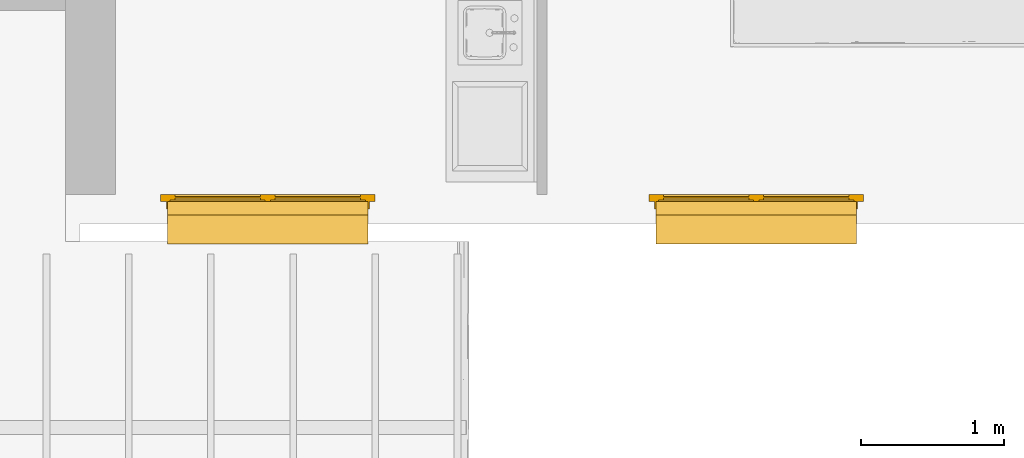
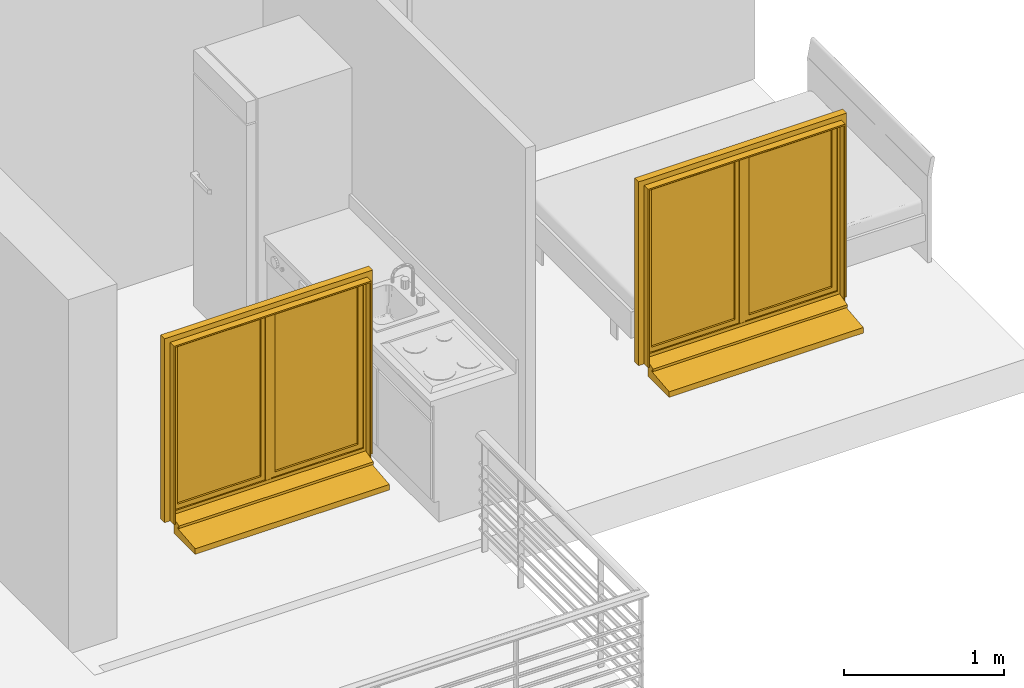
# One storey, part 11 of 15: 2 windows.
"""IFC2X3 building model written with IfcOpenShell, lengths in metres."""

from ifc_helpers import new_model, entity, si_unit, converted_unit, derived_unit, direction, frame, origin, place, context, subcontext, project, spatial, faceted_brep, source, transform, mapped, material, material_list, type_object, type_shapes, element, save


model = new_model("IFC2X3")

# Units and contexts
model_context = context("Model", 3, precision=1e-05, world=origin(), true_north=direction((6.12303176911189e-17, 1.0)))
body_context = subcontext(model_context, "Body", "Model", "MODEL_VIEW")
ifc_project = project(units=[si_unit("LENGTHUNIT", "METRE"), si_unit("AREAUNIT", "SQUARE_METRE"), si_unit("VOLUMEUNIT", "CUBIC_METRE"), converted_unit("PLANEANGLEUNIT", "DEGREE", entity("IfcRatioMeasure", 0.0174532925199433), si_unit("PLANEANGLEUNIT", "RADIAN"), dimensions=[0, 0, 0, 0, 0, 0, 0]), si_unit("MASSUNIT", "GRAM", prefix="KILO"), derived_unit("MASSDENSITYUNIT", [(si_unit("MASSUNIT", "GRAM", prefix="KILO"), 1), (si_unit("LENGTHUNIT", "METRE"), -3)]), derived_unit("MOMENTOFINERTIAUNIT", [(si_unit("LENGTHUNIT", "METRE"), 4)]), si_unit("TIMEUNIT", "SECOND"), si_unit("FREQUENCYUNIT", "HERTZ"), si_unit("THERMODYNAMICTEMPERATUREUNIT", "DEGREE_CELSIUS"), derived_unit("THERMALTRANSMITTANCEUNIT", [(si_unit("MASSUNIT", "GRAM", prefix="KILO"), 1), (si_unit("THERMODYNAMICTEMPERATUREUNIT", "KELVIN"), -1), (si_unit("TIMEUNIT", "SECOND"), -3)]), derived_unit("VOLUMETRICFLOWRATEUNIT", [(si_unit("LENGTHUNIT", "METRE"), 3), (si_unit("TIMEUNIT", "SECOND"), -1)]), si_unit("ELECTRICCURRENTUNIT", "AMPERE"), si_unit("ELECTRICVOLTAGEUNIT", "VOLT"), si_unit("POWERUNIT", "WATT"), si_unit("FORCEUNIT", "NEWTON", prefix="KILO"), si_unit("ILLUMINANCEUNIT", "LUX"), si_unit("LUMINOUSFLUXUNIT", "LUMEN"), si_unit("LUMINOUSINTENSITYUNIT", "CANDELA"), derived_unit("USERDEFINED", [(si_unit("MASSUNIT", "GRAM", prefix="KILO"), -1), (si_unit("LENGTHUNIT", "METRE"), -2), (si_unit("TIMEUNIT", "SECOND"), 3), (si_unit("LUMINOUSFLUXUNIT", "LUMEN"), 1)]), derived_unit("LINEARVELOCITYUNIT", [(si_unit("LENGTHUNIT", "METRE"), 1), (si_unit("TIMEUNIT", "SECOND"), -1)]), si_unit("PRESSUREUNIT", "PASCAL"), derived_unit("USERDEFINED", [(si_unit("LENGTHUNIT", "METRE"), -2), (si_unit("MASSUNIT", "GRAM", prefix="KILO"), 1), (si_unit("TIMEUNIT", "SECOND"), -2)]), derived_unit("LINEARFORCEUNIT", [(si_unit("MASSUNIT", "GRAM", prefix="KILO"), 1), (si_unit("LENGTHUNIT", "METRE"), 1), (si_unit("TIMEUNIT", "SECOND"), -2), (si_unit("LENGTHUNIT", "METRE"), -1)]), derived_unit("PLANARFORCEUNIT", [(si_unit("MASSUNIT", "GRAM", prefix="KILO"), 1), (si_unit("LENGTHUNIT", "METRE"), 1), (si_unit("TIMEUNIT", "SECOND"), -2), (si_unit("LENGTHUNIT", "METRE"), -2)])], contexts=[model_context])

# Site, building, storey
site_placement = place(None, origin())
site = spatial("IfcSite", under=ifc_project, at=site_placement, Name="Surface", CompositionType="ELEMENT")
building_placement = place(site_placement, origin())
building = spatial("IfcBuilding", under=site, at=building_placement, CompositionType="ELEMENT")
storey_placement = place(building_placement, frame((0.0, 0.0, 2.65)))
storey = spatial("IfcBuildingStorey", under=building, at=storey_placement, Name="Niveau étage", CompositionType="ELEMENT", Elevation=2.65)

# Windows
ifc_material_1 = material(Name="Fenêtre - Poignée")
ifc_material_2 = material(Name="Fenêtre - Appui")
ifc_material_3 = material(Name="Fenêtre - Cadre(1)")
ifc_material_4 = material(Name="Fenêtre - Vitrage")
ifc_material_5 = material(Name="Fenêtre - Cadre")
ifc_material_list_1 = material_list([ifc_material_1, ifc_material_2, ifc_material_3, ifc_material_4, ifc_material_5])
ifc_material_6 = material(Name="Volets - Bois")
ifc_material_list_2 = material_list([ifc_material_4, ifc_material_5, ifc_material_6, ifc_material_2, ifc_material_3, ifc_material_1])
window_style = type_object("IfcWindowStyle", Name="2 Vantaux droits - Volets et petits bois:1.40m x 1.35m - Appui Béton 2", ConstructionType="NOTDEFINED", OperationType="DOUBLE_PANEL_VERTICAL", ParameterTakesPrecedence=False, Sizeable=False, material=ifc_material_list_2)
shared_shape = source(origin(), body_context, "Body", "Brep", [
    faceted_brep([(0.780646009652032, -0.67100000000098, 0.702033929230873), (0.782033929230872, -0.67100000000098, 0.700646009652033), (0.782033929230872, -0.67100000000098, 0.689332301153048), (0.780667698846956, -0.67100000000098, 0.687966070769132), (0.769332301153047, -0.67100000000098, 0.687966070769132), (0.767966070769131, -0.67100000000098, 0.689332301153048), (0.767966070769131, -0.67100000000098, 0.700646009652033), (0.769353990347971, -0.67100000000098, 0.702033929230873), (0.780646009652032, -0.683913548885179, 0.702033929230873), (0.782033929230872, -0.683338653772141, 0.700646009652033), (0.782033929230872, -0.69664600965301, 0.687338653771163), (0.782033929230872, -0.69664600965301, 0.600000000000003), (0.782033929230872, -0.685332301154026, 0.600000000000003), (0.782033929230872, -0.685332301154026, 0.682652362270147), (0.782033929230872, -0.678652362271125, 0.689332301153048), (0.780667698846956, -0.678086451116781, 0.687966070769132), (0.769332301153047, -0.678086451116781, 0.687966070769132), (0.767966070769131, -0.678652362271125, 0.689332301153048), (0.767966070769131, -0.685332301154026, 0.682652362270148), (0.767966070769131, -0.685332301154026, 0.600000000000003), (0.767966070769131, -0.69664600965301, 0.600000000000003), (0.767966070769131, -0.69664600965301, 0.687338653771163), (0.767966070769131, -0.683338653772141, 0.700646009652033), (0.769353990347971, -0.683913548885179, 0.702033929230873), (0.780646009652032, -0.69803392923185, 0.687913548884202), (0.780667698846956, -0.68396607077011, 0.682086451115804), (0.769332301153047, -0.68396607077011, 0.682086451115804), (0.769353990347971, -0.698033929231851, 0.687913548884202), (0.780646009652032, -0.69803392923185, 0.600000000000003), (0.769353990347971, -0.69803392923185, 0.600000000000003), (0.769332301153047, -0.68396607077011, 0.600000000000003), (0.780667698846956, -0.68396607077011, 0.600000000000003)], [[[0, 1, 2, 3, 4, 5, 6, 7]], [[1, 0, 8, 9]], [[2, 1, 9, 10, 11, 12, 13, 14]], [[3, 2, 14, 15]], [[4, 3, 15, 16]], [[5, 4, 16, 17]], [[6, 5, 17, 18, 19, 20, 21, 22]], [[7, 6, 22, 23]], [[0, 7, 23, 8]], [[9, 8, 24, 10]], [[15, 14, 13, 25]], [[16, 15, 25, 26]], [[17, 16, 26, 18]], [[23, 22, 21, 27]], [[8, 23, 27, 24]], [[28, 29, 20, 19, 30, 31, 12, 11]], [[10, 24, 28, 11]], [[25, 13, 12, 31]], [[26, 25, 31, 30]], [[18, 26, 30, 19]], [[27, 21, 20, 29]], [[24, 27, 29, 28]]]),
    faceted_brep([(0.782000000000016, -0.671000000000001, 0.72), (0.768, -0.671000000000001, 0.72), (0.763, -0.671000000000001, 0.715000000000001), (0.763, -0.671000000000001, 0.644999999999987), (0.767999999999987, -0.671000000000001, 0.639999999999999), (0.782000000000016, -0.671000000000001, 0.639999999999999), (0.787000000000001, -0.671000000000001, 0.644999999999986), (0.787000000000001, -0.671000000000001, 0.715000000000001), (0.782000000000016, -0.665000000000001, 0.72), (0.787000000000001, -0.665000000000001, 0.715000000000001), (0.787000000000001, -0.665000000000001, 0.644999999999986), (0.782000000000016, -0.665000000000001, 0.639999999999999), (0.767999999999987, -0.665000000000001, 0.639999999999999), (0.763, -0.665000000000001, 0.644999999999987), (0.763, -0.665000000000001, 0.715000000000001), (0.768, -0.665000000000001, 0.72)], [[[0, 1, 2, 3, 4, 5, 6, 7]], [[8, 9, 10, 11, 12, 13, 14, 15]], [[1, 0, 8, 15]], [[2, 1, 15, 14]], [[3, 2, 14, 13]], [[4, 3, 13, 12]], [[5, 4, 12, 11]], [[6, 5, 11, 10]], [[7, 6, 10, 9]], [[0, 7, 9, 8]]]),
    faceted_brep([(0.0499999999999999, -0.584999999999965, 0.0799999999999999), (0.05, -0.534999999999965, 0.0799999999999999), (0.05, -0.534999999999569, 0.0650000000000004), (0.0500000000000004, -0.319999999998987, 0.0424025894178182), (0.0500000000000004, -0.319999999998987, 0.0), (0.0499999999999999, -0.584999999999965, 0.0), (1.45, -0.584999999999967, 0.0799999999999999), (1.45, -0.584999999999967, 0.0), (1.45, -0.31999999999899, 0.0), (1.45, -0.31999999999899, 0.0424025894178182), (1.45, -0.534999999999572, 0.0650000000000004), (1.45, -0.534999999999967, 0.0799999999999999)], [[[0, 1, 2, 3, 4, 5]], [[6, 7, 8, 9, 10, 11]], [[1, 0, 6, 11]], [[2, 1, 11, 10]], [[3, 2, 10, 9]], [[4, 3, 9, 8]], [[5, 4, 8, 7]], [[0, 5, 7, 6]]]),
    faceted_brep([(0.75, -0.624999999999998, 1.43), (0.749999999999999, -0.664999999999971, 1.43), (0.749999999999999, -0.664999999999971, 0.13), (0.749999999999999, -0.624999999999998, 0.13), (0.0499999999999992, -0.664999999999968, 0.13), (0.0499999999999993, -0.624999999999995, 0.13), (0.0499999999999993, -0.664999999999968, 1.43), (0.0999999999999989, -0.664999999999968, 0.18), (0.0999999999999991, -0.664999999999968, 1.38), (0.699999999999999, -0.66499999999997, 1.38), (0.699999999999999, -0.66499999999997, 0.18), (0.0499999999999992, -0.624999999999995, 1.43), (0.699999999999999, -0.624999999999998, 0.18), (0.7, -0.624999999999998, 1.38), (0.0999999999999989, -0.624999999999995, 1.38), (0.0999999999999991, -0.624999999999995, 0.18)], [[[0, 1, 2, 3]], [[3, 2, 4, 5]], [[2, 1, 6, 4], [7, 8, 9, 10]], [[5, 4, 6, 11]], [[5, 11, 0, 3], [12, 13, 14, 15]], [[9, 13, 12, 10]], [[10, 12, 15, 7]], [[7, 15, 14, 8]], [[11, 6, 1, 0]], [[8, 14, 13, 9]]]),
    faceted_brep([(0.8, -0.639000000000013, 0.18), (0.8, -0.639000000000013, 1.38), (1.4, -0.639000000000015, 1.38), (1.4, -0.639000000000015, 0.18), (0.8, -0.651000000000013, 0.18), (0.8, -0.651000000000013, 1.38), (1.4, -0.651000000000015, 1.38), (1.4, -0.651000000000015, 0.18)], [[[0, 1, 2, 3]], [[1, 0, 4, 5]], [[3, 2, 6, 7]], [[0, 3, 7, 4]], [[2, 1, 5, 6]], [[4, 7, 6, 5]]]),
    faceted_brep([(0.7, -0.639000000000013, 0.18), (0.7, -0.639000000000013, 1.38), (0.7, -0.651000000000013, 1.38), (0.7, -0.651000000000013, 0.18), (0.0999999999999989, -0.639000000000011, 0.18), (0.0999999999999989, -0.651000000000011, 0.18), (0.0999999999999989, -0.639000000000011, 1.38), (0.0999999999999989, -0.651000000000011, 1.38)], [[[0, 1, 2, 3]], [[4, 0, 3, 5]], [[6, 4, 5, 7]], [[7, 5, 3, 2]], [[1, 6, 7, 2]], [[6, 1, 0, 4]]]),
    faceted_brep([(0.799999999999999, -0.625000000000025, 1.38), (0.799999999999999, -0.665000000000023, 1.38), (0.799999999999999, -0.665000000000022, 0.18), (0.8, -0.625000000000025, 0.18), (1.4, -0.665000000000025, 0.18), (1.4, -0.625000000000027, 0.18), (1.4, -0.665000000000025, 1.38), (1.45, -0.665000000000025, 0.130000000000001), (1.45, -0.665000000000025, 1.43), (0.75, -0.665000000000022, 1.43), (0.75, -0.665000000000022, 0.130000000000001), (1.4, -0.625000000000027, 1.38), (0.75, -0.625000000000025, 0.130000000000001), (0.75, -0.625000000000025, 1.43), (1.45, -0.625000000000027, 1.43), (1.45, -0.625000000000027, 0.130000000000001)], [[[0, 1, 2, 3]], [[3, 2, 4, 5]], [[2, 1, 6, 4], [7, 8, 9, 10]], [[5, 4, 6, 11]], [[5, 11, 0, 3], [12, 13, 14, 15]], [[9, 13, 12, 10]], [[10, 12, 15, 7]], [[7, 15, 14, 8]], [[11, 6, 1, 0]], [[8, 14, 13, 9]]], outer=[[True], [True], [False, True], [True], [False, True], [True], [True], [True], [True], [True]]),
    faceted_brep([(0.0, -0.665000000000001, 0.0799999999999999), (0.0, -0.615000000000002, 0.0799999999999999), (0.0499999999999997, -0.615000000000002, 0.0799999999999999), (0.0499999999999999, -0.530000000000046, 0.0799999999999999), (1.45, -0.530000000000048, 0.0800000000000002), (1.45, -0.615000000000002, 0.0799999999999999), (1.5, -0.615000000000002, 0.0799999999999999), (1.5, -0.665000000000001, 0.0799999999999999), (0.0, -0.665000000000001, 1.48), (0.0, -0.615000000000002, 1.48), (1.5, -0.615000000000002, 1.48), (1.45, -0.615000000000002, 0.119376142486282), (0.0499999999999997, -0.615000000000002, 0.119376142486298), (0.0649999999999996, -0.615000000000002, 1.415), (0.0649999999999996, -0.615000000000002, 0.145), (1.435, -0.615000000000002, 0.145), (1.435, -0.615000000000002, 1.415), (0.0499999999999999, -0.520000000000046, 0.0939209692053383), (0.0499999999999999, -0.520000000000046, 0.0749999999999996), (0.0499999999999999, -0.530000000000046, 0.0749999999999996), (1.45, -0.530000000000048, 0.0749999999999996), (1.45, -0.520000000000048, 0.0749999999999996), (1.45, -0.520000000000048, 0.0939209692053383), (1.5, -0.665000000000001, 1.48), (1.45, -0.665000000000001, 1.43), (1.45, -0.665000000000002, 0.13), (0.0499999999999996, -0.665000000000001, 0.13), (0.0499999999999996, -0.665000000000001, 1.43), (0.0649999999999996, -0.625000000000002, 1.415), (0.0649999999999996, -0.625000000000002, 0.145), (1.435, -0.625000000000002, 0.145), (1.435, -0.625000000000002, 1.415), (1.45, -0.625000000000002, 1.43), (0.0499999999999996, -0.625000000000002, 1.43), (0.0499999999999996, -0.625000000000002, 0.13), (1.45, -0.625000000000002, 0.13)], [[[0, 1, 2, 3, 4, 5, 6, 7]], [[1, 0, 8, 9]], [[1, 9, 10, 6, 5, 11, 12, 2], [13, 14, 15, 16]], [[12, 17, 18, 19, 3, 2]], [[3, 19, 20, 4]], [[4, 20, 21, 22, 11, 5]], [[6, 10, 23, 7]], [[0, 7, 23, 8], [24, 25, 26, 27]], [[13, 28, 29, 14]], [[29, 30, 15, 14]], [[31, 16, 15, 30]], [[17, 12, 11, 22]], [[32, 33, 34, 35], [28, 31, 30, 29]], [[34, 33, 27, 26]], [[26, 25, 35, 34]], [[24, 32, 35, 25]], [[18, 17, 22, 21]], [[19, 18, 21, 20]], [[13, 16, 31, 28]], [[33, 32, 24, 27]], [[10, 9, 8, 23]]]),
    faceted_brep([(0.0499999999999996, -0.565, 0.0799999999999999), (0.0499999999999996, -0.615000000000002, 0.0799999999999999), (0.0399999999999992, -0.615000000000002, 0.0799999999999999), (0.0399999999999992, -0.565, 0.0799999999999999), (0.0499999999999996, -0.565, 1.43), (0.0499999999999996, -0.615000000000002, 1.43), (1.45, -0.615000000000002, 1.43), (1.45, -0.615000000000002, 0.0799999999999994), (1.46, -0.615000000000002, 0.0799999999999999), (1.46, -0.615000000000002, 1.44), (0.0399999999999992, -0.615000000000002, 1.44), (0.0399999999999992, -0.565, 1.44), (1.46, -0.565, 1.44), (1.46, -0.565, 0.0799999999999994), (1.45, -0.565, 0.0799999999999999), (1.45, -0.565, 1.43)], [[[0, 1, 2, 3]], [[1, 0, 4, 5]], [[2, 1, 5, 6, 7, 8, 9, 10]], [[3, 2, 10, 11]], [[0, 3, 11, 12, 13, 14, 15, 4]], [[6, 15, 14, 7]], [[14, 13, 8, 7]], [[12, 9, 8, 13]], [[5, 4, 15, 6]], [[11, 10, 9, 12]]]),
    faceted_brep([(0.769999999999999, -0.61700000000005, 1.415), (0.729999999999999, -0.617000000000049, 1.415), (0.729999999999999, -0.625000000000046, 1.415), (0.769999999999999, -0.625000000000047, 1.415), (0.769999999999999, -0.61700000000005, 0.145), (0.769999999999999, -0.625000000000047, 0.145), (0.729999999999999, -0.625000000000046, 0.145), (0.729999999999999, -0.617000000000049, 0.145)], [[[0, 1, 2, 3]], [[4, 5, 6, 7]], [[1, 0, 4, 7]], [[2, 1, 7, 6]], [[3, 2, 6, 5]], [[0, 3, 5, 4]]]),
])
type_shapes(window_style, [shared_shape])
window_1_placement = place(storey_placement, frame((7.77781713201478, -1.0907418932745, 0.72), z_axis=(0.0, 0.0, 1.0), x_axis=(-1.0, 0.0, 0.0)))
element("IfcWindow", 1, at=window_1_placement, inside=storey, type_object=window_style, material=ifc_material_list_1, Name="2 Vantaux droits - Volets et petits bois:1.40m x 1.35m - Appui Béton 2", ObjectType="2 Vantaux droits - Volets et petits bois:1.40m x 1.35m - Appui Béton 2", OverallHeight=1.48, OverallWidth=1.5, context=body_context, shape_type="MappedRepresentation", body=[
    mapped(shared_shape, transform((0.0, 0.0, 0.0), scale=1.0)),
])
ifc_material_list_3 = material_list([ifc_material_1, ifc_material_2, ifc_material_3, ifc_material_4, ifc_material_5])
window_2_placement = place(storey_placement, frame((11.1943960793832, -1.09074189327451, 0.72), z_axis=(0.0, 0.0, 1.0), x_axis=(-1.0, 0.0, 0.0)))
element("IfcWindow", 2, at=window_2_placement, inside=storey, type_object=window_style, material=ifc_material_list_3, Name="2 Vantaux droits - Volets et petits bois:1.40m x 1.35m - Appui Béton 2", ObjectType="2 Vantaux droits - Volets et petits bois:1.40m x 1.35m - Appui Béton 2", OverallHeight=1.48, OverallWidth=1.5, context=body_context, shape_type="MappedRepresentation", body=[
    mapped(shared_shape, transform((0.0, 0.0, 0.0), scale=1.0)),
])

save(model, "model.ifc")
